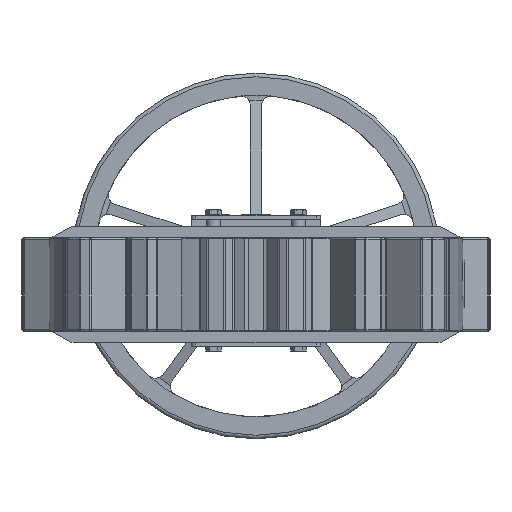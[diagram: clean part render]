
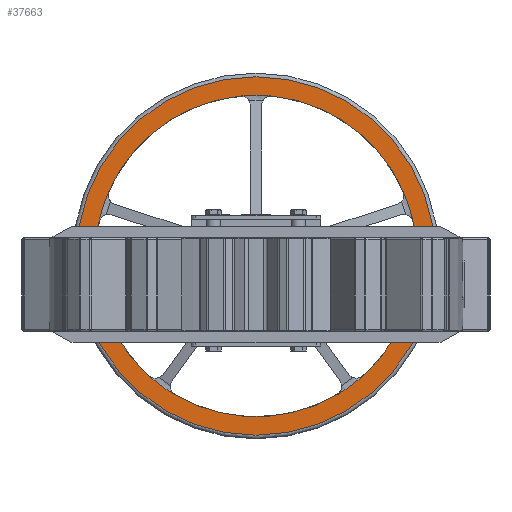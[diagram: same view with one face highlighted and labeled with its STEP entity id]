
A CAD part, front view. The second image highlights one B-rep face of the part: STEP entity #37663.
In plain terms, the highlighted planar face has unit normal (0, -1, 0).
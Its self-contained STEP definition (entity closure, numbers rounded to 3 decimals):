
#33360=CARTESIAN_POINT('',(-212.613,1151.,84.349));
#33361=VERTEX_POINT('',#33360);
#33983=CARTESIAN_POINT('',(-109.306,1151.,-149.539));
#33984=VERTEX_POINT('',#33983);
#34606=CARTESIAN_POINT('',(145.058,1151.,-123.563));
#34607=VERTEX_POINT('',#34606);
#35229=CARTESIAN_POINT('',(198.957,1151.,126.378));
#35230=VERTEX_POINT('',#35229);
#35697=CARTESIAN_POINT('',(-198.957,1151.,126.378));
#35698=VERTEX_POINT('',#35697);
#35718=CARTESIAN_POINT('',(0.,1151.,38.5));
#35719=DIRECTION('',(0.0,1.0,0.0));
#35720=DIRECTION('',(1.0,0.0,0.0));
#35721=AXIS2_PLACEMENT_3D('',#35718,#35719,#35720);
#35722=CIRCLE('',#35721,217.5);
#35723=EDGE_CURVE('',#33361,#35698,#35722,.T.);
#35856=CARTESIAN_POINT('',(-145.058,1151.,-123.563));
#35857=VERTEX_POINT('',#35856);
#35877=CARTESIAN_POINT('',(0.,1151.,38.5));
#35878=DIRECTION('',(0.0,1.0,0.0));
#35879=DIRECTION('',(1.0,0.0,0.0));
#35880=AXIS2_PLACEMENT_3D('',#35877,#35878,#35879);
#35881=CIRCLE('',#35880,217.5);
#35882=EDGE_CURVE('',#33984,#35857,#35881,.T.);
#36015=CARTESIAN_POINT('',(109.306,1151.,-149.539));
#36016=VERTEX_POINT('',#36015);
#36036=CARTESIAN_POINT('',(0.,1151.,38.5));
#36037=DIRECTION('',(0.0,1.0,0.0));
#36038=DIRECTION('',(1.0,0.0,0.0));
#36039=AXIS2_PLACEMENT_3D('',#36036,#36037,#36038);
#36040=CIRCLE('',#36039,217.5);
#36041=EDGE_CURVE('',#34607,#36016,#36040,.T.);
#36207=CARTESIAN_POINT('',(212.613,1151.,84.349));
#36208=VERTEX_POINT('',#36207);
#36228=CARTESIAN_POINT('',(0.,1151.,38.5));
#36229=DIRECTION('',(0.0,1.0,0.0));
#36230=DIRECTION('',(1.0,0.0,0.0));
#36231=AXIS2_PLACEMENT_3D('',#36228,#36229,#36230);
#36232=CIRCLE('',#36231,217.5);
#36233=EDGE_CURVE('',#35230,#36208,#36232,.T.);
#36246=CARTESIAN_POINT('',(0.,1151.,38.5));
#36247=DIRECTION('',(0.0,1.0,0.0));
#36248=DIRECTION('',(1.0,0.0,0.0));
#36249=AXIS2_PLACEMENT_3D('',#36246,#36247,#36248);
#36250=CIRCLE('',#36249,217.5);
#36251=EDGE_CURVE('',#35857,#33361,#36250,.T.);
#36256=CARTESIAN_POINT('',(0.,1151.,38.5));
#36257=DIRECTION('',(0.0,1.0,0.0));
#36258=DIRECTION('',(1.0,0.0,0.0));
#36259=AXIS2_PLACEMENT_3D('',#36256,#36257,#36258);
#36260=CIRCLE('',#36259,217.5);
#36261=EDGE_CURVE('',#36016,#33984,#36260,.T.);
#36266=CARTESIAN_POINT('',(0.,1151.,38.5));
#36267=DIRECTION('',(0.0,1.0,0.0));
#36268=DIRECTION('',(1.0,0.0,0.0));
#36269=AXIS2_PLACEMENT_3D('',#36266,#36267,#36268);
#36270=CIRCLE('',#36269,217.5);
#36271=EDGE_CURVE('',#36208,#34607,#36270,.T.);
#36281=CARTESIAN_POINT('',(22.096,1151.,254.875));
#36282=VERTEX_POINT('',#36281);
#36283=CARTESIAN_POINT('',(0.,1151.,38.5));
#36284=DIRECTION('',(0.0,1.0,0.0));
#36285=DIRECTION('',(1.0,0.0,0.0));
#36286=AXIS2_PLACEMENT_3D('',#36283,#36284,#36285);
#36287=CIRCLE('',#36286,217.5);
#36288=EDGE_CURVE('',#36282,#35230,#36287,.T.);
#36307=CARTESIAN_POINT('',(-22.096,1151.,254.875));
#36308=VERTEX_POINT('',#36307);
#36315=CARTESIAN_POINT('',(0.,1151.,38.5));
#36316=DIRECTION('',(0.0,1.0,0.0));
#36317=DIRECTION('',(1.0,0.0,0.0));
#36318=AXIS2_PLACEMENT_3D('',#36315,#36316,#36317);
#36319=CIRCLE('',#36318,217.5);
#36320=EDGE_CURVE('',#35698,#36308,#36319,.T.);
#37605=CARTESIAN_POINT('',(-242.5,1151.,38.5));
#37606=VERTEX_POINT('',#37605);
#37607=CARTESIAN_POINT('',(0.,1151.,38.5));
#37608=DIRECTION('',(0.0,1.0,0.0));
#37609=DIRECTION('',(1.0,0.0,0.0));
#37610=AXIS2_PLACEMENT_3D('',#37607,#37608,#37609);
#37611=CIRCLE('',#37610,242.5);
#37612=EDGE_CURVE('',#37606,#37606,#37611,.T.);
#37637=CARTESIAN_POINT('',(0.,1151.,38.5));
#37638=DIRECTION('',(0.0,1.0,0.0));
#37639=DIRECTION('',(-1.0,0.0,0.0));
#37640=AXIS2_PLACEMENT_3D('',#37637,#37638,#37639);
#37641=PLANE('',#37640);
#37642=ORIENTED_EDGE('',*,*,#37612,.F.);
#37643=EDGE_LOOP('',(#37642));
#37644=FACE_OUTER_BOUND('',#37643,.T.);
#37645=ORIENTED_EDGE('',*,*,#36288,.T.);
#37646=ORIENTED_EDGE('',*,*,#36233,.T.);
#37647=ORIENTED_EDGE('',*,*,#36271,.T.);
#37648=ORIENTED_EDGE('',*,*,#36041,.T.);
#37649=ORIENTED_EDGE('',*,*,#36261,.T.);
#37650=ORIENTED_EDGE('',*,*,#35882,.T.);
#37651=ORIENTED_EDGE('',*,*,#36251,.T.);
#37652=ORIENTED_EDGE('',*,*,#35723,.T.);
#37653=ORIENTED_EDGE('',*,*,#36320,.T.);
#37654=CARTESIAN_POINT('',(0.,1151.,38.5));
#37655=DIRECTION('',(0.0,1.0,0.0));
#37656=DIRECTION('',(1.0,0.0,0.0));
#37657=AXIS2_PLACEMENT_3D('',#37654,#37655,#37656);
#37658=CIRCLE('',#37657,217.5);
#37659=EDGE_CURVE('',#36308,#36282,#37658,.T.);
#37660=ORIENTED_EDGE('',*,*,#37659,.T.);
#37661=EDGE_LOOP('',(#37645,#37646,#37647,#37648,#37649,#37650,#37651,#37652,#37653,#37660));
#37662=FACE_BOUND('',#37661,.T.);
#37663=ADVANCED_FACE('',(#37644,#37662),#37641,.F.);
